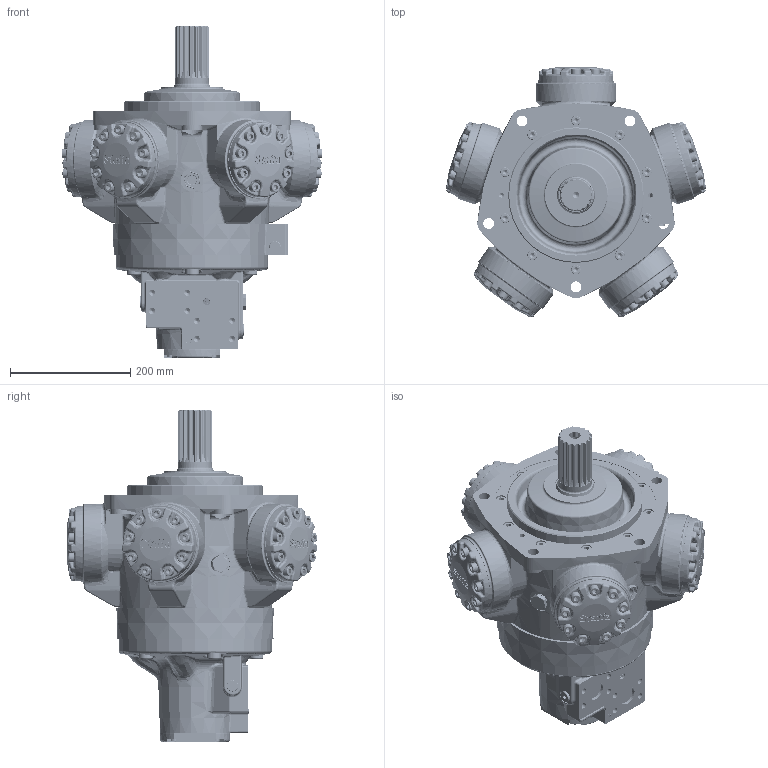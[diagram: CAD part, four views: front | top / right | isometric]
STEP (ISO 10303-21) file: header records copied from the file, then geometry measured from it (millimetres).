
FILE_DESCRIPTION(/* description */ (''),/* implementation_level */ '2;1');
FILE_NAME(/* name */ 'HMC045_Z_FM3_CS.stp',/* time_stamp */ '2025-02-27T17:03:17Z',/* author */ ('ccallanga'),/* organization */ (''),/* preprocessor_version */ 'ST-DEVELOPER v20',/* originating_system */ 'Autodesk Inventor 2024',/* authorisation */ '');
FILE_SCHEMA (('AUTOMOTIVE_DESIGN { 1 0 10303 214 3 1 1 }'));
Products named in the file (1): HMC045 WEBSITE ASSEMBLY_Simplify_1
Bounding box: 433.5 x 415.89 x 551.71 mm (x, y, z)
Volume: 24088074 mm3; surface area: 781015.2 mm2
Topology: 1 solids, 1 shells, 5260 faces, 12566 edges, 7365 vertices
Faces by surface type: bspline 1730, plane 1282, cylinder 1220, torus 565, cone 239, sphere 224
Full cylindrical faces by diameter (mm): 4 x1, 4.134 x4, 5.5 x4, 8.376 x4, 9.4 x5, 10.109 x8, 11.328 x1, 11.913 x4, 11.938 x3, 12 x1, 12.7 x4, 16 x55, 16.5 x45, 16.51 x1, 17 x10, 18 x5, 19 x3, 23.825 x5, 24.892 x1, 25 x1, 25.4 x5, 26.92 x2, 27.495 x1, 27.94 x1, 31.75 x2, 38.1 x3, 56.388 x1, 67.564 x1, 68.58 x1, 103.124 x1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
Entity records: 223460 total; most frequent: CARTESIAN_POINT 109406, ORIENTED_EDGE 24710, DIRECTION 19345, EDGE_CURVE 12355, AXIS2_PLACEMENT_3D 7798, VERTEX_POINT 7365, EDGE_LOOP 5538, STYLED_ITEM 5261
